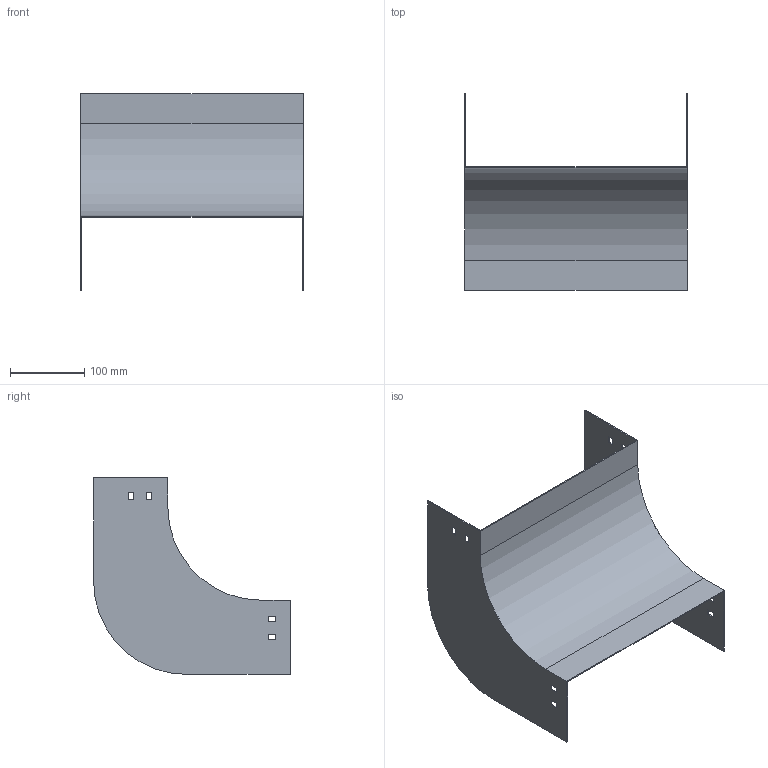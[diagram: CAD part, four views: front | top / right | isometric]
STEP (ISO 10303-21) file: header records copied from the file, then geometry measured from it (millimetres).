
FILE_DESCRIPTION (( 'STEP AP214' ), '1' );
FILE_NAME ('D9_301.step', '2025-07-16T09:08:47', ( '' ), ( '' ), 'SwSTEP 2.0', 'SolidWorks 2023', '' );
FILE_SCHEMA (( 'AUTOMOTIVE_DESIGN' ));
Length unit declared in the file: millimetre
Products named in the file (1): D9_301
Bounding box: 300 x 265 x 265 mm (x, y, z)
Volume: 251798.6 mm3; surface area: 339055.9 mm2
Topology: 1 solids, 1 shells, 50 faces, 144 edges, 96 vertices
Faces by surface type: plane 46, cylinder 4
Entity records: 1671 total; most frequent: CARTESIAN_POINT 291, ORIENTED_EDGE 288, DIRECTION 254, EDGE_CURVE 144, VECTOR 136, LINE 136, VERTEX_POINT 96, EDGE_LOOP 66
